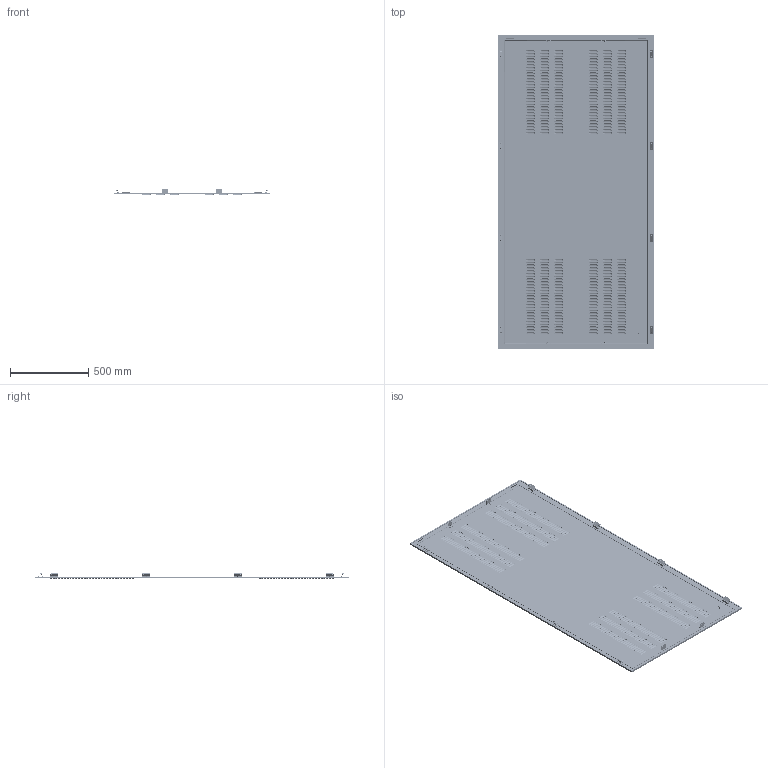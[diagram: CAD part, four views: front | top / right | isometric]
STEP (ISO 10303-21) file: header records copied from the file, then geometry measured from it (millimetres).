
FILE_DESCRIPTION (( 'STEP AP214' ), '1' );
FILE_NAME ('FO-00-PBV-200-100 Ïàíåëü çàäíÿÿ âåíòèëèðóåìàÿ 2000õ1000 ìì.STEP', '2025-08-04T12:11:33', ( '' ), ( '' ), 'SwSTEP 2.0', 'SolidWorks 2023', '' );
FILE_SCHEMA (( 'AUTOMOTIVE_DESIGN' ));
Products named in the file (1): FO-00-PBV-200-100 Панель задняя вентилируемая 2000х1000 мм
Bounding box: 995 x 2000 x 41.4 mm (x, y, z)
Volume: 3202702 mm3; surface area: 4420055.9 mm2
Topology: 1 solids, 1 shells, 7495 faces, 19751 edges, 12338 vertices
Faces by surface type: cylinder 2558, plane 2545, torus 2112, cone 268, bspline 12
Entity records: 236253 total; most frequent: DIRECTION 45716, CARTESIAN_POINT 40348, ORIENTED_EDGE 39494, EDGE_CURVE 19747, AXIS2_PLACEMENT_3D 18553, VERTEX_POINT 12337, CIRCLE 11069, VECTOR 8610
